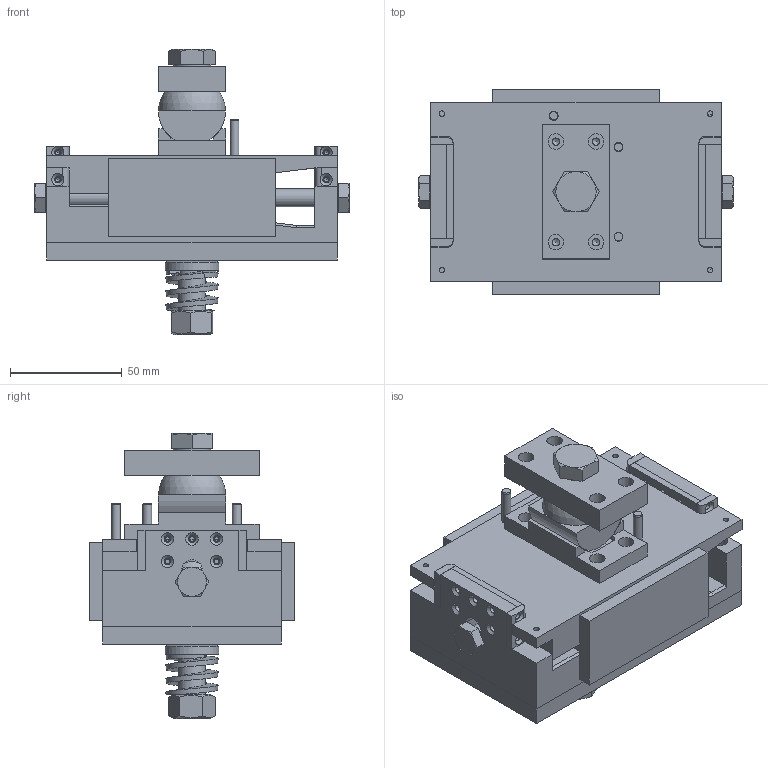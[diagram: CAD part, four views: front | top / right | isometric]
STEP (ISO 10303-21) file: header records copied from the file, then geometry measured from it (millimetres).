
FILE_DESCRIPTION(/* description */ (''),/* implementation_level */ '2;1');
FILE_NAME(/* name */ 'MORFEO alignment tool + spherolynder.stp',/* time_stamp */ '2026-07-02T10:07:46+02:00',/* author */ ('redae'),/* organization */ (''),/* preprocessor_version */ 'ST-DEVELOPER v20.1',/* originating_system */ 'Autodesk Inventor 2026',/* authorisation */ '');
FILE_SCHEMA (('AUTOMOTIVE_DESIGN { 1 0 10303 214 3 1 1 }'));
Length unit declared in the file: millimetre
Products named in the file (20): MORFEO alignment tool + spherolynder; MORFEO alignment tool; MORFEO cuneo 1; MORFEO cuneo 2; MORFEO cuneo 3; ISO 4017 - M8 x 50; ISO 4762 - M4 x 30; MORFEO brass; MORFEO brass 2; Spherolynder assembly; gdl2_plate v2; gdl3S_plate v2; spherolynder; ISO 4017 - M12 x 120; ISO 2338 - 4 h8 x 22; CSN 24 3553 - 12; CSN 24 3553 - 12_1; ISO 4032 - M12; Die-Spring-2006-L25-051-bimex; MORFEO shim
Assembly tree (27 placements, depth 3):
  MORFEO alignment tool + spherolynder
    MORFEO alignment tool
      MORFEO cuneo 1
      MORFEO cuneo 2
      MORFEO cuneo 3
      ISO 4017 - M8 x 50  x2
      ISO 4762 - M4 x 30  x2
      MORFEO brass  x4
      MORFEO brass 2  x2
    Spherolynder assembly
      gdl2_plate v2
      gdl3S_plate v2
      spherolynder
    ISO 4017 - M12 x 120
    ISO 2338 - 4 h8 x 22  x3
    CSN 24 3553 - 12
    CSN 24 3553 - 12_1
    ISO 4032 - M12
    Die-Spring-2006-L25-051-bimex
    MORFEO shim
Bounding box: 140.6 x 92 x 127.5 mm (x, y, z)
Volume: 480907.3 mm3; surface area: 156358 mm2
Topology: 25 solids, 25 shells, 471 faces, 1175 edges, 756 vertices
Faces by surface type: plane 242, cylinder 140, cone 72, bspline 12, torus 4, sphere 1
Full cylindrical faces by diameter (mm): 2.013 x18, 2.459 x4, 2.9 x18, 3.242 x6, 4 x8, 4.5 x4, 5.5 x2, 6.917 x2, 7 x10, 8 x12, 10 x2, 10.106 x1, 11.63 x2, 12 x1, 13 x2, 14 x1, 16 x1, 16.63 x1, 17 x2, 21.5 x1, 24 x3
Entity records: 16471 total; most frequent: CARTESIAN_POINT 6270, DIRECTION 2000, ORIENTED_EDGE 1888, EDGE_CURVE 944, AXIS2_PLACEMENT_3D 719, VERTEX_POINT 618, LINE 562, VECTOR 562
